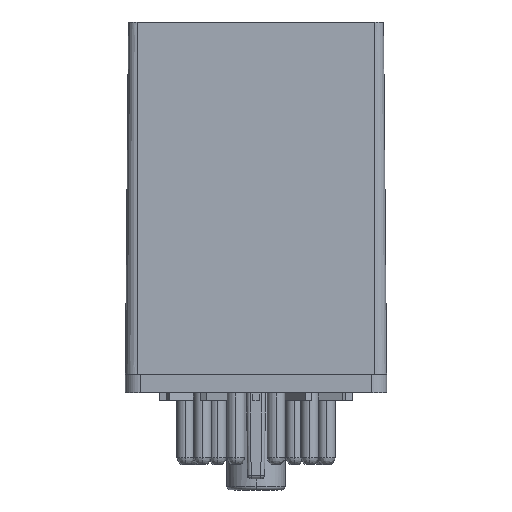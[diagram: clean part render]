
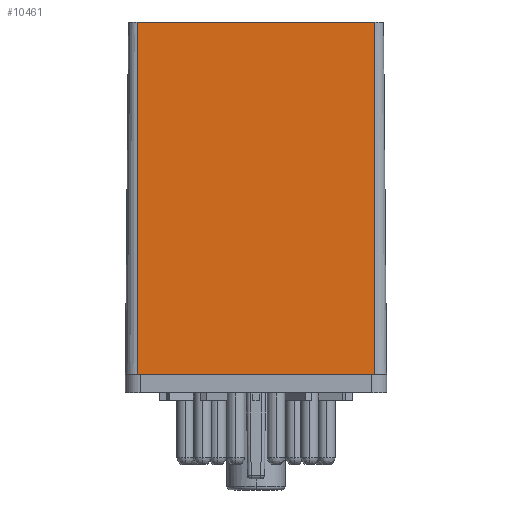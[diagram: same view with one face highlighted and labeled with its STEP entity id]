
A CAD part, front view. The second image highlights one B-rep face of the part: STEP entity #10461.
In plain terms, the highlighted planar face has unit normal (0, -1, 0.009).
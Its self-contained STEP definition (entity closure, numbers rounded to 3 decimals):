
#349 = VERTEX_POINT ( 'NONE', #15169 ) ;
#691 = VERTEX_POINT ( 'NONE', #1081 ) ;
#1081 = CARTESIAN_POINT ( 'NONE',  ( -15.9, -17.5, 3.5 ) ) ;
#1144 = VECTOR ( 'NONE', #14966, 1000. ) ;
#1670 = CARTESIAN_POINT ( 'NONE',  ( 15.5, -17.5, 3.5 ) ) ;
#2194 = EDGE_CURVE ( 'NONE', #5105, #16000, #14693, .T. ) ;
#2833 = CARTESIAN_POINT ( 'NONE',  ( -15.9, -17.5, 3.5 ) ) ;
#2844 = ORIENTED_EDGE ( 'NONE', *, *, #2194, .T. ) ;
#3019 = DIRECTION ( 'NONE',  ( 0., -0.009, -1. ) ) ;
#3105 = DIRECTION ( 'NONE',  ( 0., 0.009, 1. ) ) ;
#4332 = DIRECTION ( 'NONE',  ( 0., -0.009, -1. ) ) ;
#4893 = EDGE_CURVE ( 'NONE', #14468, #16771, #9579, .T. ) ;
#4900 = PLANE ( 'NONE',  #7420 ) ;
#5089 = DIRECTION ( 'NONE',  ( 0., -1., 0.009 ) ) ;
#5105 = VERTEX_POINT ( 'NONE', #12954 ) ;
#5247 = CARTESIAN_POINT ( 'NONE',  ( 15.9, -17.088, 50.7 ) ) ;
#5542 = LINE ( 'NONE', #15356, #13055 ) ;
#6400 = ORIENTED_EDGE ( 'NONE', *, *, #6818, .T. ) ;
#6818 = EDGE_CURVE ( 'NONE', #691, #5105, #10784, .T. ) ;
#7420 = AXIS2_PLACEMENT_3D ( 'NONE', #12404, #5089, #3019 ) ;
#8035 = CARTESIAN_POINT ( 'NONE',  ( -15.9, -17.5, 3.5 ) ) ;
#8607 = LINE ( 'NONE', #15783, #13718 ) ;
#8878 = DIRECTION ( 'NONE',  ( 1., 0., 0. ) ) ;
#8974 = EDGE_CURVE ( 'NONE', #16000, #349, #8607, .T. ) ;
#9579 = LINE ( 'NONE', #11085, #1144 ) ;
#10461 = ADVANCED_FACE ( 'NONE', ( #15369 ), #4900, .T. ) ;
#10784 = LINE ( 'NONE', #11078, #15903 ) ;
#11067 = VECTOR ( 'NONE', #16144, 1000. ) ;
#11078 = CARTESIAN_POINT ( 'NONE',  ( -15.9, -17.5, 3.5 ) ) ;
#11085 = CARTESIAN_POINT ( 'NONE',  ( -15.9, -17.088, 50.7 ) ) ;
#11572 = CARTESIAN_POINT ( 'NONE',  ( -15.9, -17.088, 50.7 ) ) ;
#11901 = LINE ( 'NONE', #2833, #15523 ) ;
#12404 = CARTESIAN_POINT ( 'NONE',  ( -15.9, -17.5, 3.5 ) ) ;
#12440 = ORIENTED_EDGE ( 'NONE', *, *, #8974, .T. ) ;
#12656 = DIRECTION ( 'NONE',  ( 1., 0., 0. ) ) ;
#12954 = CARTESIAN_POINT ( 'NONE',  ( -15.5, -17.5, 3.5 ) ) ;
#13055 = VECTOR ( 'NONE', #3105, 1000. ) ;
#13563 = EDGE_CURVE ( 'NONE', #349, #14468, #5542, .T. ) ;
#13718 = VECTOR ( 'NONE', #8878, 1000. ) ;
#13913 = ORIENTED_EDGE ( 'NONE', *, *, #13563, .T. ) ;
#14468 = VERTEX_POINT ( 'NONE', #5247 ) ;
#14693 = LINE ( 'NONE', #8035, #11067 ) ;
#14966 = DIRECTION ( 'NONE',  ( -1., 0., 0. ) ) ;
#15169 = CARTESIAN_POINT ( 'NONE',  ( 15.9, -17.5, 3.5 ) ) ;
#15356 = CARTESIAN_POINT ( 'NONE',  ( 15.9, -17.5, 3.5 ) ) ;
#15369 = FACE_OUTER_BOUND ( 'NONE', #15649, .T. ) ;
#15523 = VECTOR ( 'NONE', #4332, 1000. ) ;
#15649 = EDGE_LOOP ( 'NONE', ( #17211, #16983, #6400, #2844, #12440, #13913 ) ) ;
#15783 = CARTESIAN_POINT ( 'NONE',  ( -15.9, -17.5, 3.5 ) ) ;
#15903 = VECTOR ( 'NONE', #12656, 1000. ) ;
#16000 = VERTEX_POINT ( 'NONE', #1670 ) ;
#16144 = DIRECTION ( 'NONE',  ( 1., 0., 0. ) ) ;
#16771 = VERTEX_POINT ( 'NONE', #11572 ) ;
#16983 = ORIENTED_EDGE ( 'NONE', *, *, #17075, .T. ) ;
#17075 = EDGE_CURVE ( 'NONE', #16771, #691, #11901, .T. ) ;
#17211 = ORIENTED_EDGE ( 'NONE', *, *, #4893, .T. ) ;
